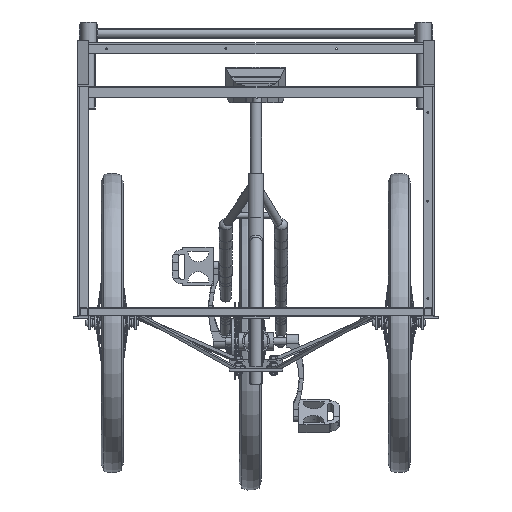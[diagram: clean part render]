
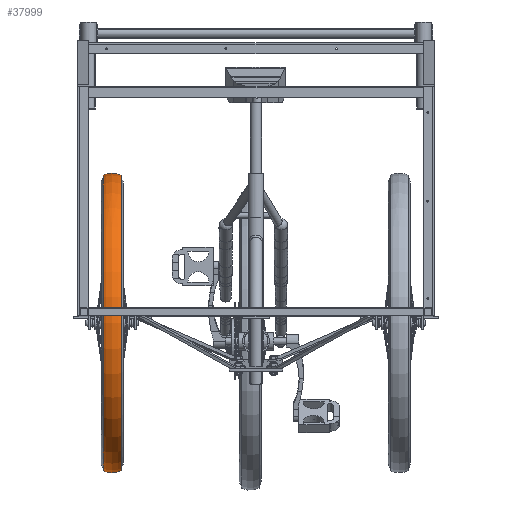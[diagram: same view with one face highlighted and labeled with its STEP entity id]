
A CAD part, top view. The second image highlights one B-rep face of the part: STEP entity #37999.
In plain terms, the highlighted toroidal (fillet/blend) face has major radius 292.063 mm and minor radius 46.91 mm.
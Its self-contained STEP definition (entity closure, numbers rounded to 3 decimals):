
#16=TOROIDAL_SURFACE('',#42510,292.063,46.909);
#4323=FACE_OUTER_BOUND('',#6259,.T.);
#6259=EDGE_LOOP('',(#31658,#31659,#31660,#31661,#31662,#31663));
#13939=CIRCLE('',#42508,334.491);
#13940=CIRCLE('',#42509,334.491);
#13941=CIRCLE('',#42511,334.5);
#13942=CIRCLE('',#42512,334.5);
#13943=CIRCLE('',#42513,46.909);
#16969=VERTEX_POINT('',#67999);
#16970=VERTEX_POINT('',#68000);
#16971=VERTEX_POINT('',#68004);
#16972=VERTEX_POINT('',#68005);
#22043=EDGE_CURVE('',#16969,#16970,#13939,.T.);
#22044=EDGE_CURVE('',#16970,#16969,#13940,.T.);
#22045=EDGE_CURVE('',#16971,#16972,#13941,.T.);
#22046=EDGE_CURVE('',#16972,#16971,#13942,.T.);
#22047=EDGE_CURVE('',#16972,#16970,#13943,.T.);
#31658=ORIENTED_EDGE('',*,*,#22045,.F.);
#31659=ORIENTED_EDGE('',*,*,#22046,.F.);
#31660=ORIENTED_EDGE('',*,*,#22047,.T.);
#31661=ORIENTED_EDGE('',*,*,#22044,.T.);
#31662=ORIENTED_EDGE('',*,*,#22043,.T.);
#31663=ORIENTED_EDGE('',*,*,#22047,.F.);
#37999=ADVANCED_FACE('',(#4323),#16,.T.);
#42508=AXIS2_PLACEMENT_3D('',#68001,#51621,#51622);
#42509=AXIS2_PLACEMENT_3D('',#68002,#51623,#51624);
#42510=AXIS2_PLACEMENT_3D('',#68003,#51625,#51626);
#42511=AXIS2_PLACEMENT_3D('',#68006,#51627,#51628);
#42512=AXIS2_PLACEMENT_3D('',#68007,#51629,#51630);
#42513=AXIS2_PLACEMENT_3D('',#68008,#51631,#51632);
#51621=DIRECTION('center_axis',(0.,0.,
-1.));
#51622=DIRECTION('ref_axis',(-0.766,0.643,0.));
#51623=DIRECTION('center_axis',(0.,0.,
-1.));
#51624=DIRECTION('ref_axis',(-0.766,0.643,0.));
#51625=DIRECTION('center_axis',(0.,0.,
-1.));
#51626=DIRECTION('ref_axis',(-0.643,-0.766,0.));
#51627=DIRECTION('center_axis',(0.,0.,
-1.));
#51628=DIRECTION('ref_axis',(-0.766,0.643,0.));
#51629=DIRECTION('center_axis',(0.,0.,
-1.));
#51630=DIRECTION('ref_axis',(-0.766,0.643,0.));
#51631=DIRECTION('center_axis',(0.766,-0.643,0.));
#51632=DIRECTION('ref_axis',(0.643,0.766,0.));
#67999=CARTESIAN_POINT('',(-256.235,215.007,20.));
#68000=CARTESIAN_POINT('',(215.007,256.235,20.));
#68001=CARTESIAN_POINT('Origin',(0.,0.,
20.));
#68002=CARTESIAN_POINT('Origin',(0.,0.,
20.));
#68003=CARTESIAN_POINT('Origin',(0.,0.,
-0.009));
#68004=CARTESIAN_POINT('',(-256.242,215.012,-20.));
#68005=CARTESIAN_POINT('',(215.012,256.242,-20.));
#68006=CARTESIAN_POINT('Origin',(0.,0.,
-20.));
#68007=CARTESIAN_POINT('Origin',(0.,0.,
-20.));
#68008=CARTESIAN_POINT('Origin',(187.735,223.733,-0.009));
